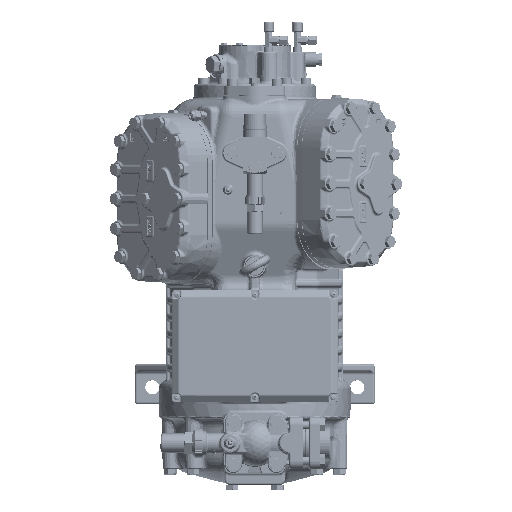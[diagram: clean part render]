
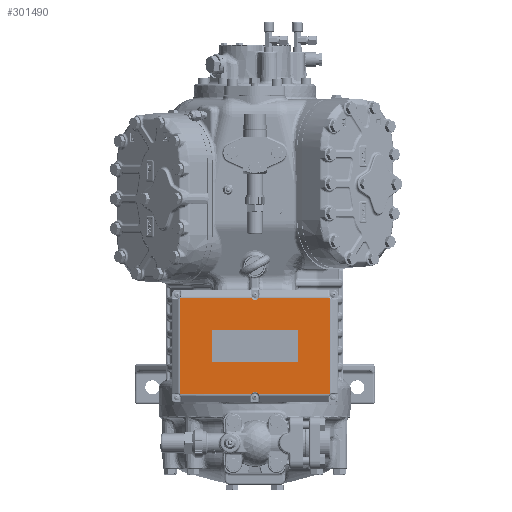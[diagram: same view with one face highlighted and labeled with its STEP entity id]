
A CAD part, top view. The second image highlights one B-rep face of the part: STEP entity #301490.
In plain terms, the highlighted planar face has unit normal (0, 0, 1).
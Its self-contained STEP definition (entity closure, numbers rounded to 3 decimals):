
#301285=CARTESIAN_POINT('',(56.604,-91.562,264.5));
#301286=VERTEX_POINT('',#301285);
#301293=CARTESIAN_POINT('',(-70.896,-91.562,264.5));
#301294=VERTEX_POINT('',#301293);
#301295=CARTESIAN_POINT('',(56.604,-91.562,264.5));
#301296=DIRECTION('',(-1.,0.,-0.));
#301297=VECTOR('',#301296,127.5);
#301298=LINE('',#301295,#301297);
#301299=EDGE_CURVE('',#301286,#301294,#301298,.T.);
#301317=CARTESIAN_POINT('',(-70.896,-138.062,264.5));
#301318=VERTEX_POINT('',#301317);
#301319=CARTESIAN_POINT('',(-70.896,-91.562,264.5));
#301320=DIRECTION('',(-0.,-1.,-0.));
#301321=VECTOR('',#301320,46.5);
#301322=LINE('',#301319,#301321);
#301323=EDGE_CURVE('',#301294,#301318,#301322,.T.);
#301341=CARTESIAN_POINT('',(56.604,-138.062,264.5));
#301342=VERTEX_POINT('',#301341);
#301343=CARTESIAN_POINT('',(-70.896,-138.062,264.5));
#301344=DIRECTION('',(1.,-0.,-0.));
#301345=VECTOR('',#301344,127.5);
#301346=LINE('',#301343,#301345);
#301347=EDGE_CURVE('',#301318,#301342,#301346,.T.);
#301365=CARTESIAN_POINT('',(56.604,-138.062,264.5));
#301366=DIRECTION('',(0.,1.,-0.));
#301367=VECTOR('',#301366,46.5);
#301368=LINE('',#301365,#301367);
#301369=EDGE_CURVE('',#301342,#301286,#301368,.T.);
#301375=CARTESIAN_POINT('',(-7.146,-114.812,264.5));
#301376=DIRECTION('',(0.,0.,1.));
#301377=DIRECTION('',(-1.,0.,0.));
#301378=AXIS2_PLACEMENT_3D('',#301375,#301376,#301377);
#301379=PLANE('',#301378);
#301380=CARTESIAN_POINT('',(101.674,-42.86,264.5));
#301381=VERTEX_POINT('',#301380);
#301382=CARTESIAN_POINT('',(-1.09,-42.86,264.5));
#301383=VERTEX_POINT('',#301382);
#301384=CARTESIAN_POINT('',(101.674,-42.86,264.5));
#301385=DIRECTION('',(-1.,0.,0.));
#301386=VECTOR('',#301385,102.764);
#301387=LINE('',#301384,#301386);
#301388=EDGE_CURVE('',#301381,#301383,#301387,.T.);
#301389=ORIENTED_EDGE('',*,*,#301388,.T.);
#301390=CARTESIAN_POINT('',(-13.203,-42.86,264.5));
#301391=VERTEX_POINT('',#301390);
#301392=CARTESIAN_POINT('',(-7.146,-38.862,264.5));
#301393=DIRECTION('',(-0.,-0.,-1.));
#301394=DIRECTION('',(1.,0.,-0.));
#301395=AXIS2_PLACEMENT_3D('',#301392,#301393,#301394);
#301396=CIRCLE('',#301395,7.257);
#301397=EDGE_CURVE('',#301383,#301391,#301396,.T.);
#301398=ORIENTED_EDGE('',*,*,#301397,.T.);
#301399=CARTESIAN_POINT('',(-115.967,-42.86,264.5));
#301400=VERTEX_POINT('',#301399);
#301401=CARTESIAN_POINT('',(-13.203,-42.86,264.5));
#301402=DIRECTION('',(-1.,0.,0.));
#301403=VECTOR('',#301402,102.764);
#301404=LINE('',#301401,#301403);
#301405=EDGE_CURVE('',#301391,#301400,#301404,.T.);
#301406=ORIENTED_EDGE('',*,*,#301405,.T.);
#301407=CARTESIAN_POINT('',(-119.049,-45.941,264.5));
#301408=VERTEX_POINT('',#301407);
#301409=CARTESIAN_POINT('',(-115.967,-42.86,264.5));
#301410=CARTESIAN_POINT('',(-117.948,-42.86,264.5));
#301411=CARTESIAN_POINT('',(-119.049,-43.96,264.5));
#301412=CARTESIAN_POINT('',(-119.049,-45.941,264.5));
#301413=(BOUNDED_CURVE()
B_SPLINE_CURVE(3,(#301409,#301410,#301411,#301412),.UNSPECIFIED.,.F.,.F.)
B_SPLINE_CURVE_WITH_KNOTS((4,4),(0.,1.),.UNSPECIFIED.)
CURVE()
GEOMETRIC_REPRESENTATION_ITEM()
RATIONAL_B_SPLINE_CURVE((1.,0.933,0.933,1.))
REPRESENTATION_ITEM(''));
#301414=EDGE_CURVE('',#301400,#301408,#301413,.T.);
#301415=ORIENTED_EDGE('',*,*,#301414,.T.);
#301416=CARTESIAN_POINT('',(-119.049,-183.682,264.5));
#301417=VERTEX_POINT('',#301416);
#301418=CARTESIAN_POINT('',(-119.049,-45.941,264.5));
#301419=DIRECTION('',(-0.,-1.,0.));
#301420=VECTOR('',#301419,137.741);
#301421=LINE('',#301418,#301420);
#301422=EDGE_CURVE('',#301408,#301417,#301421,.T.);
#301423=ORIENTED_EDGE('',*,*,#301422,.T.);
#301424=CARTESIAN_POINT('',(-115.967,-186.764,264.5));
#301425=VERTEX_POINT('',#301424);
#301426=CARTESIAN_POINT('',(-119.049,-183.682,264.5));
#301427=CARTESIAN_POINT('',(-119.049,-185.664,264.5));
#301428=CARTESIAN_POINT('',(-117.948,-186.764,264.5));
#301429=CARTESIAN_POINT('',(-115.967,-186.764,264.5));
#301430=(BOUNDED_CURVE()
B_SPLINE_CURVE(3,(#301426,#301427,#301428,#301429),.UNSPECIFIED.,.F.,.F.)
B_SPLINE_CURVE_WITH_KNOTS((4,4),(0.,1.),.UNSPECIFIED.)
CURVE()
GEOMETRIC_REPRESENTATION_ITEM()
RATIONAL_B_SPLINE_CURVE((1.,0.933,0.933,1.))
REPRESENTATION_ITEM(''));
#301431=EDGE_CURVE('',#301417,#301425,#301430,.T.);
#301432=ORIENTED_EDGE('',*,*,#301431,.T.);
#301433=CARTESIAN_POINT('',(-13.203,-186.764,264.5));
#301434=VERTEX_POINT('',#301433);
#301435=CARTESIAN_POINT('',(-115.967,-186.764,264.5));
#301436=DIRECTION('',(1.,-0.,-0.));
#301437=VECTOR('',#301436,102.764);
#301438=LINE('',#301435,#301437);
#301439=EDGE_CURVE('',#301425,#301434,#301438,.T.);
#301440=ORIENTED_EDGE('',*,*,#301439,.T.);
#301441=CARTESIAN_POINT('',(-1.09,-186.764,264.5));
#301442=VERTEX_POINT('',#301441);
#301443=CARTESIAN_POINT('',(-7.146,-190.762,264.5));
#301444=DIRECTION('',(-0.,-0.,-1.));
#301445=DIRECTION('',(1.,0.,-0.));
#301446=AXIS2_PLACEMENT_3D('',#301443,#301444,#301445);
#301447=CIRCLE('',#301446,7.257);
#301448=EDGE_CURVE('',#301434,#301442,#301447,.T.);
#301449=ORIENTED_EDGE('',*,*,#301448,.T.);
#301450=CARTESIAN_POINT('',(101.674,-186.764,264.5));
#301451=VERTEX_POINT('',#301450);
#301452=CARTESIAN_POINT('',(-1.09,-186.764,264.5));
#301453=DIRECTION('',(1.,-0.,-0.));
#301454=VECTOR('',#301453,102.764);
#301455=LINE('',#301452,#301454);
#301456=EDGE_CURVE('',#301442,#301451,#301455,.T.);
#301457=ORIENTED_EDGE('',*,*,#301456,.T.);
#301458=CARTESIAN_POINT('',(104.756,-183.682,264.5));
#301459=VERTEX_POINT('',#301458);
#301460=CARTESIAN_POINT('',(101.674,-186.764,264.5));
#301461=CARTESIAN_POINT('',(103.655,-186.764,264.5));
#301462=CARTESIAN_POINT('',(104.756,-185.664,264.5));
#301463=CARTESIAN_POINT('',(104.756,-183.682,264.5));
#301464=(BOUNDED_CURVE()
B_SPLINE_CURVE(3,(#301460,#301461,#301462,#301463),.UNSPECIFIED.,.F.,.F.)
B_SPLINE_CURVE_WITH_KNOTS((4,4),(0.,1.),.UNSPECIFIED.)
CURVE()
GEOMETRIC_REPRESENTATION_ITEM()
RATIONAL_B_SPLINE_CURVE((1.,0.933,0.933,1.))
REPRESENTATION_ITEM(''));
#301465=EDGE_CURVE('',#301451,#301459,#301464,.T.);
#301466=ORIENTED_EDGE('',*,*,#301465,.T.);
#301467=CARTESIAN_POINT('',(104.756,-45.941,264.5));
#301468=VERTEX_POINT('',#301467);
#301469=CARTESIAN_POINT('',(104.756,-183.682,264.5));
#301470=DIRECTION('',(0.,1.,-0.));
#301471=VECTOR('',#301470,137.741);
#301472=LINE('',#301469,#301471);
#301473=EDGE_CURVE('',#301459,#301468,#301472,.T.);
#301474=ORIENTED_EDGE('',*,*,#301473,.T.);
#301475=CARTESIAN_POINT('',(104.756,-45.941,264.5));
#301476=CARTESIAN_POINT('',(104.756,-43.96,264.5));
#301477=CARTESIAN_POINT('',(103.655,-42.86,264.5));
#301478=CARTESIAN_POINT('',(101.674,-42.86,264.5));
#301479=(BOUNDED_CURVE()
B_SPLINE_CURVE(3,(#301475,#301476,#301477,#301478),.UNSPECIFIED.,.F.,.F.)
B_SPLINE_CURVE_WITH_KNOTS((4,4),(0.,1.),.UNSPECIFIED.)
CURVE()
GEOMETRIC_REPRESENTATION_ITEM()
RATIONAL_B_SPLINE_CURVE((1.,0.933,0.933,1.))
REPRESENTATION_ITEM(''));
#301480=EDGE_CURVE('',#301468,#301381,#301479,.T.);
#301481=ORIENTED_EDGE('',*,*,#301480,.T.);
#301482=EDGE_LOOP('',(#301389,#301398,#301406,#301415,#301423,#301432,#301440,#301449,#301457,#301466,#301474,#301481));
#301483=FACE_BOUND('',#301482,.T.);
#301484=ORIENTED_EDGE('',*,*,#301369,.F.);
#301485=ORIENTED_EDGE('',*,*,#301347,.F.);
#301486=ORIENTED_EDGE('',*,*,#301323,.F.);
#301487=ORIENTED_EDGE('',*,*,#301299,.F.);
#301488=EDGE_LOOP('',(#301484,#301485,#301486,#301487));
#301489=FACE_BOUND('',#301488,.T.);
#301490=ADVANCED_FACE('',(#301483,#301489),#301379,.T.);
